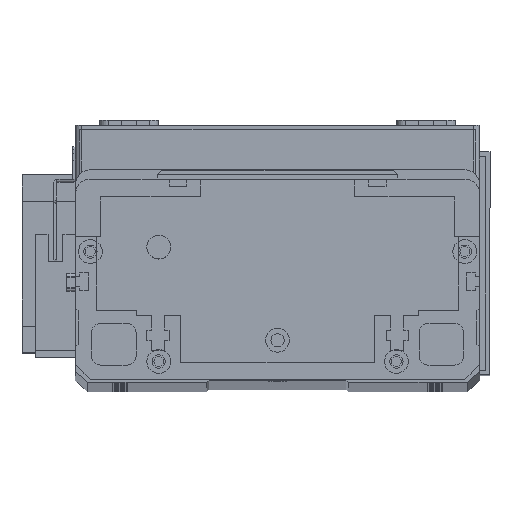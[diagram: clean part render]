
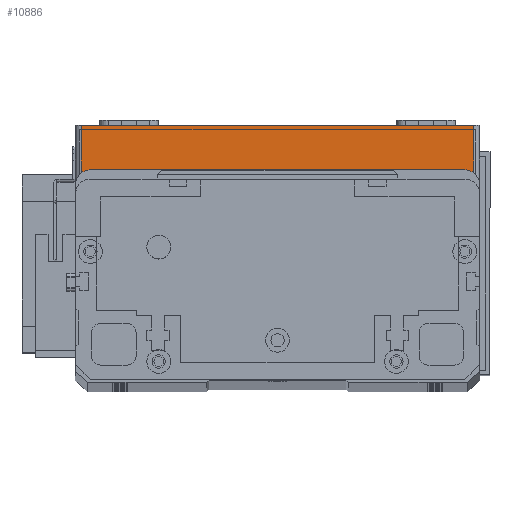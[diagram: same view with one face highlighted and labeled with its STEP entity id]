
A CAD part, top view. The second image highlights one B-rep face of the part: STEP entity #10886.
In plain terms, the highlighted planar face has unit normal (0, 0, 1) as drawn and (0, -1, 0) by its records, which use the part's own axes.
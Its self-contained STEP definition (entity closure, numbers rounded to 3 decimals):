
#639 = LINE ( 'NONE', #6405, #6082 ) ;
#758 = DIRECTION ( 'NONE',  ( 0., 1., 0. ) ) ;
#1217 = DIRECTION ( 'NONE',  ( 0., 0., 1. ) ) ;
#4064 = DIRECTION ( 'NONE',  ( 0., 0., -1. ) ) ;
#4606 = EDGE_CURVE ( 'NONE', #28357, #27859, #11160, .T. ) ;
#5238 = CARTESIAN_POINT ( 'NONE',  ( 0., 0., 19.5 ) ) ;
#6082 = VECTOR ( 'NONE', #4064, 1000. ) ;
#6405 = CARTESIAN_POINT ( 'NONE',  ( 2., 0., 19.5 ) ) ;
#8803 = LINE ( 'NONE', #17484, #26570 ) ;
#8881 = EDGE_LOOP ( 'NONE', ( #9176, #29689, #21674, #9317 ) ) ;
#9176 = ORIENTED_EDGE ( 'NONE', *, *, #4606, .F. ) ;
#9317 = ORIENTED_EDGE ( 'NONE', *, *, #12678, .T. ) ;
#10886 = ADVANCED_FACE ( 'NONE', ( #21610 ), #19239, .F. ) ;
#11160 = LINE ( 'NONE', #5238, #28186 ) ;
#12678 = EDGE_CURVE ( 'NONE', #23721, #27859, #8803, .T. ) ;
#13446 = CARTESIAN_POINT ( 'NONE',  ( 0., 0., 0. ) ) ;
#14653 = CARTESIAN_POINT ( 'NONE',  ( 0., 0., 19.5 ) ) ;
#14904 = AXIS2_PLACEMENT_3D ( 'NONE', #14653, #758, #17007 ) ;
#15027 = VECTOR ( 'NONE', #15771, 1000. ) ;
#15651 = CARTESIAN_POINT ( 'NONE',  ( 2., 0., 19.5 ) ) ;
#15771 = DIRECTION ( 'NONE',  ( 1., 0., 0. ) ) ;
#17007 = DIRECTION ( 'NONE',  ( 0., 0., 1. ) ) ;
#17484 = CARTESIAN_POINT ( 'NONE',  ( 134., 0., 19.5 ) ) ;
#18266 = VERTEX_POINT ( 'NONE', #21973 ) ;
#19239 = PLANE ( 'NONE',  #14904 ) ;
#19663 = EDGE_CURVE ( 'NONE', #28357, #18266, #639, .T. ) ;
#20739 = CARTESIAN_POINT ( 'NONE',  ( 134., 0., 19.5 ) ) ;
#20844 = EDGE_CURVE ( 'NONE', #18266, #23721, #27323, .T. ) ;
#21080 = CARTESIAN_POINT ( 'NONE',  ( 134., 0., 0. ) ) ;
#21447 = DIRECTION ( 'NONE',  ( 1., 0., 0. ) ) ;
#21610 = FACE_OUTER_BOUND ( 'NONE', #8881, .T. ) ;
#21674 = ORIENTED_EDGE ( 'NONE', *, *, #20844, .T. ) ;
#21973 = CARTESIAN_POINT ( 'NONE',  ( 2., 0., 0. ) ) ;
#23721 = VERTEX_POINT ( 'NONE', #21080 ) ;
#26570 = VECTOR ( 'NONE', #1217, 1000. ) ;
#27323 = LINE ( 'NONE', #13446, #15027 ) ;
#27859 = VERTEX_POINT ( 'NONE', #20739 ) ;
#28186 = VECTOR ( 'NONE', #21447, 1000. ) ;
#28357 = VERTEX_POINT ( 'NONE', #15651 ) ;
#29689 = ORIENTED_EDGE ( 'NONE', *, *, #19663, .T. ) ;
